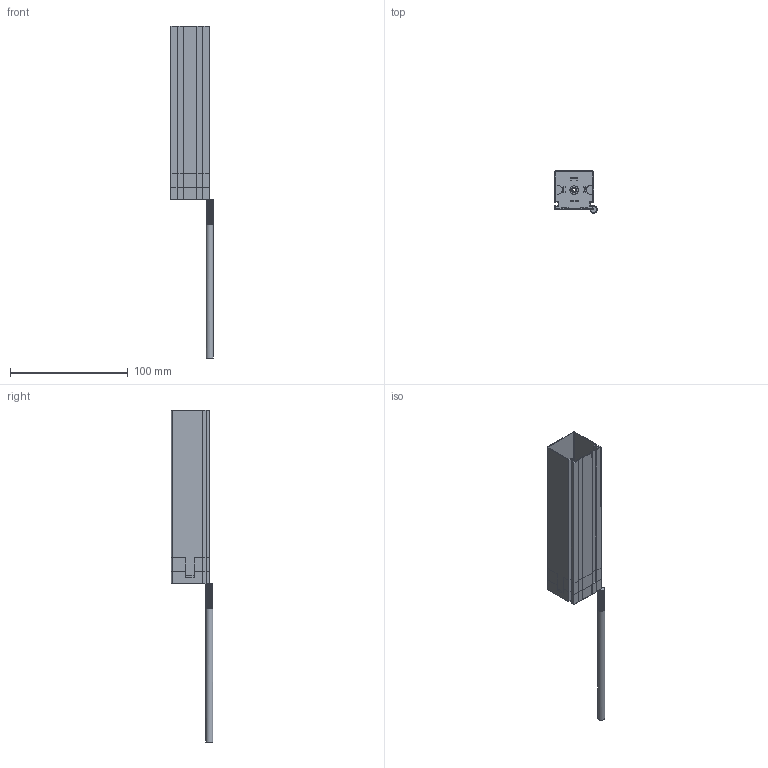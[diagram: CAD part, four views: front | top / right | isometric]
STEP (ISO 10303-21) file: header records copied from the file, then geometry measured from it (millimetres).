
FILE_DESCRIPTION(/* description */ ('Alibre Inc.'),/* implementation_level */ '2;1');
FILE_NAME(/* name */ 'export0',/* time_stamp */ '2013-03-26T12:17:55-06:00',/* author */ (''),/* organization */ (''),/* preprocessor_version */ 'ST-DEVELOPER v14',/* originating_system */ 'Alibre',/* authorisation */ '');
FILE_SCHEMA (('ALIBRE_SCHEMA','CONFIG_CONTROL_DESIGN'));
Length unit declared in the file: centimetre
Products named in the file (5): ID_1
Bounding box: 35.78 x 35.57 x 281.61 mm (x, y, z)
Volume: 45567.5 mm3; surface area: 55116.1 mm2
Topology: 4 solids, 4 shells, 176 faces, 488 edges, 326 vertices
Faces by surface type: plane 127, cylinder 46, bspline 3
Full cylindrical faces by diameter (mm): 2.49 x1, 4.54 x1, 6 x23, 7.22 x1, 7.33 x1
Entity records: 16430 total; most frequent: CARTESIAN_POINT 5635, CONSTRAINTPAIRUV 1065, DIRECTION 1043, ORIENTED_EDGE 822, REFERENCEDEPENDENTUV 725, VECTOR 715, LINE 594, REFERENCEPOINTUV 523
